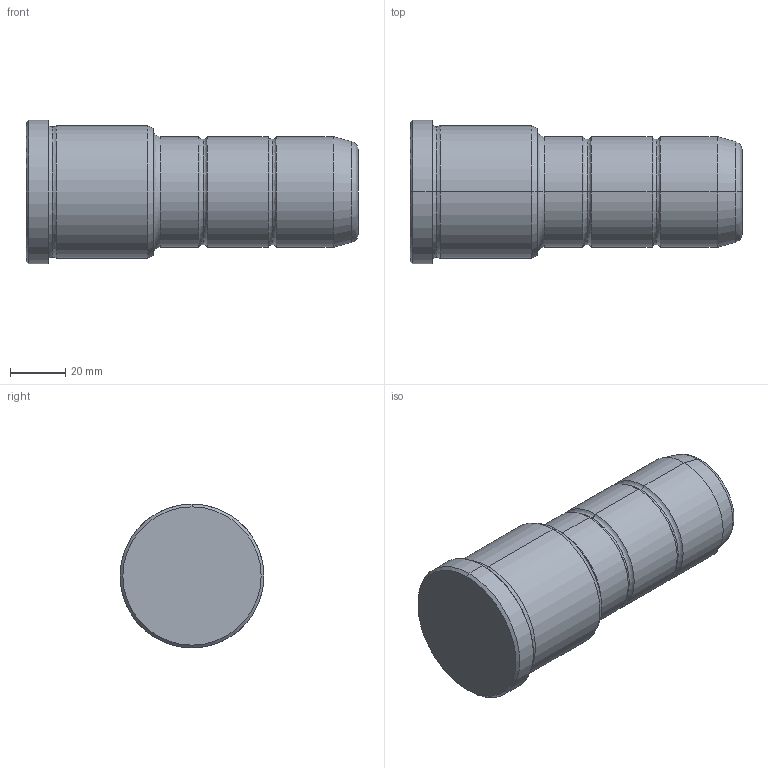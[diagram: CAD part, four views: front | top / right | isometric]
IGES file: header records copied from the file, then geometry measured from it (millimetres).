
Start section: START RECORD GO HERE.
Global section: file name: 351-40X46X120.igs; native system: DASSAULT SYSTEMES CATIA V5 R20 - www.3ds.com; preprocessor: CATIA Version 5 Release 20 ; author: Utente; organization: NB04-ASUS; date: 20211028.203800; units: millimetre
Bounding box: 120 x 52 x 52 mm (x, y, z)
Surface area: 20031.6 mm2 (no closed solid volume)
Topology: 0 solids, 0 shells, 36 faces, 204 edges, 204 vertices
Faces by surface type: revolution 32, plane 4
